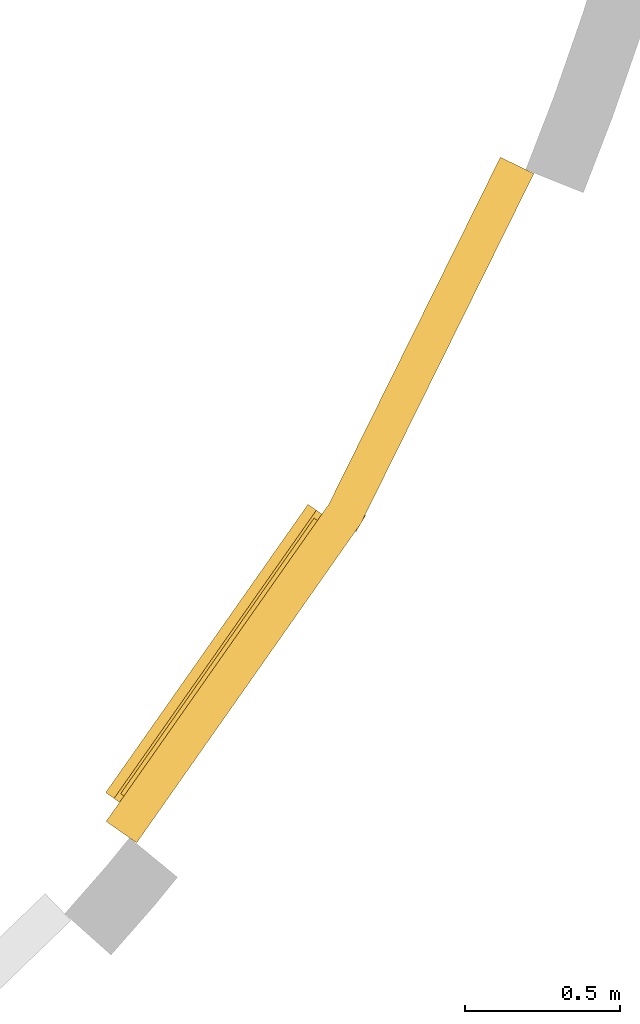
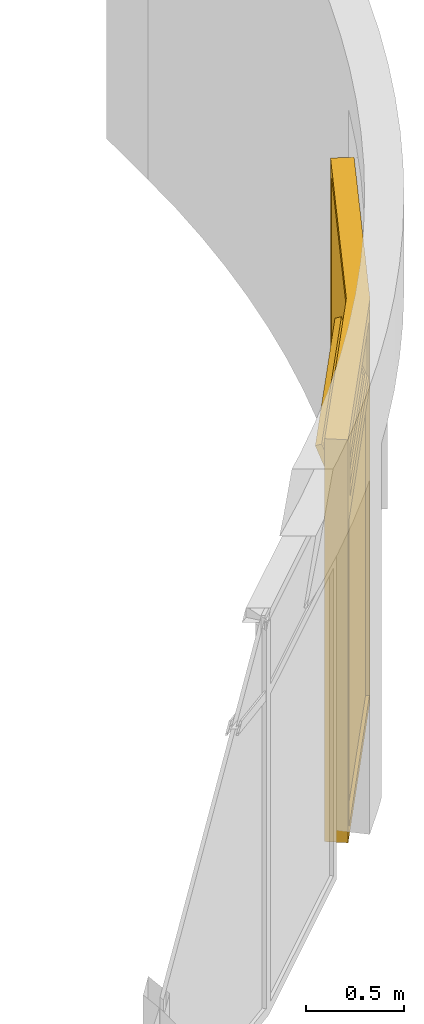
# One storey, part 7 of 7: 1 curtain wall.
"""IFC4 building model written with IfcOpenShell, lengths in millimetres."""

from ifc_helpers import new_model, entity, si_unit, converted_unit, derived_unit, direction, frame, origin_with_axes, place, context, subcontext, project, spatial, polygons, material, constituent, constituent_set, type_object, element, save


model = new_model("IFC4")

# Units and contexts
model_context = context("Model", 3, precision=0.01, world=origin_with_axes(), true_north=direction((0.0, 1.0)))
body_context = subcontext(model_context, "Body", "Model", "MODEL_VIEW")
ifc_project = project(units=[si_unit("LENGTHUNIT", "METRE", prefix="MILLI"), si_unit("AREAUNIT", "SQUARE_METRE"), si_unit("VOLUMEUNIT", "CUBIC_METRE"), converted_unit("PLANEANGLEUNIT", "DEGREE", entity("IfcPlaneAngleMeasure", 0.0174532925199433), si_unit("PLANEANGLEUNIT", "RADIAN"), dimensions=[0, 0, 0, 0, 0, 0, 0]), converted_unit("TIMEUNIT", "Year", entity("IfcTimeMeasure", 31557600.0), si_unit("TIMEUNIT", "SECOND"), dimensions=[0, 0, 1, 0, 0, 0, 0]), si_unit("MASSUNIT", "GRAM", prefix="KILO"), si_unit("THERMODYNAMICTEMPERATUREUNIT", "DEGREE_CELSIUS"), si_unit("LUMINOUSINTENSITYUNIT", "LUMEN"), si_unit("ENERGYUNIT", "JOULE", prefix="MEGA"), derived_unit("THERMALCONDUCTANCEUNIT", [(si_unit("POWERUNIT", "WATT"), 1), (si_unit("LENGTHUNIT", "METRE"), -1), (si_unit("THERMODYNAMICTEMPERATUREUNIT", "KELVIN"), -1)]), derived_unit("SPECIFICHEATCAPACITYUNIT", [(si_unit("ENERGYUNIT", "JOULE"), 1), (si_unit("MASSUNIT", "GRAM", prefix="KILO"), -1), (si_unit("THERMODYNAMICTEMPERATUREUNIT", "KELVIN"), -1)]), derived_unit("MASSDENSITYUNIT", [(si_unit("MASSUNIT", "GRAM", prefix="KILO"), 1), (si_unit("VOLUMEUNIT", "CUBIC_METRE"), -1)])], contexts=[model_context])

# Site, building, storey
site_placement = place(None, origin_with_axes())
site = spatial("IfcSite", under=ifc_project, at=site_placement, Name="Exteriér", CompositionType="ELEMENT")
building_placement = place(site_placement, origin_with_axes())
building = spatial("IfcBuilding", under=site, at=building_placement, Name="Univerzitní lezecké centrum", CompositionType="ELEMENT")
storey_placement = place(building_placement, origin_with_axes())
storey = spatial("IfcBuildingStorey", under=building, at=storey_placement, Name="1.NP", CompositionType="ELEMENT", Elevation=0.0)

# Curtain wall
ifc_material_1 = material(Name="Sklo")
ifc_constituent_1 = constituent(ifc_material_1, Name="Sklo 1")
ifc_constituent_2 = constituent(ifc_material_1, Name="Sklo 2")
ifc_constituent_3 = constituent(ifc_material_1, Name="Sklo 3")
ifc_material_2 = material(Name="Hliník")
ifc_constituent_4 = constituent(ifc_material_2, Name="Hliník 1")
ifc_constituent_5 = constituent(ifc_material_1, Name="Sklo 4")
ifc_constituent_6 = constituent(ifc_material_2, Name="Hliník 2")
ifc_constituent_7 = constituent(ifc_material_2, Name="Hliník 3")
ifc_constituent_8 = constituent(ifc_material_2, Name="Hliník 4")
ifc_constituent_9 = constituent(ifc_material_2, Name="Hliník 5")
ifc_constituent_10 = constituent(ifc_material_2, Name="Hliník 6")
ifc_constituent_11 = constituent(ifc_material_2, Name="Hliník 7")
ifc_constituent_12 = constituent(ifc_material_2, Name="Hliník 8")
ifc_constituent_13 = constituent(ifc_material_2, Name="Hliník 9")
ifc_constituent_14 = constituent(ifc_material_2, Name="Hliník 10")
ifc_constituent_15 = constituent(ifc_material_2, Name="Hliník 11")
ifc_constituent_16 = constituent(ifc_material_2, Name="Hliník 12")
ifc_constituent_17 = constituent(ifc_material_2, Name="Hliník 13")
ifc_constituent_set = constituent_set(constituents=[ifc_constituent_1, ifc_constituent_2, ifc_constituent_3, ifc_constituent_4, ifc_constituent_5, ifc_constituent_6, ifc_constituent_7, ifc_constituent_8, ifc_constituent_9, ifc_constituent_10, ifc_constituent_11, ifc_constituent_12, ifc_constituent_13, ifc_constituent_14, ifc_constituent_15, ifc_constituent_16, ifc_constituent_17])
curtain_wall_type = type_object("IfcCurtainWallType", Name="Typ lehkého obvodového pláště", PredefinedType="NOTDEFINED")
curtain_wall_placement = place(storey_placement, frame((9781.418617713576, -3917.675509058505, 0.0), z_axis=(0.0, 0.0, 1.0), x_axis=(1.0, 0.0, 0.0)))
element("IfcCurtainWall", 1, at=curtain_wall_placement, inside=storey, type_object=curtain_wall_type, material=ifc_constituent_set, Name="LOP01", PredefinedType="NOTDEFINED", context=body_context, shape_type="Tessellation", body=[
    polygons([(-286.7219246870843, -557.4251302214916, 2469.999973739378), (-268.7930911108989, -566.288364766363, 2469.999973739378), (273.4660872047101, 530.6107992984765, 2469.999973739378), (255.537253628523, 539.4740338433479, 2469.999973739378), (-286.7219246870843, -557.4251302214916, 2002.999991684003), (-268.7930911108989, -566.288364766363, 2002.999991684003), (273.4660872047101, 530.6107992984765, 2002.999991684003), (255.537253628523, 539.4740338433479, 2002.999991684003)], [[[1, 2, 3, 4]], [[5, 6, 2, 1]], [[2, 6, 7, 3]], [[4, 3, 7, 8]], [[1, 4, 8, 5]], [[8, 7, 6, 5]]], closed=True),
    polygons([(-286.721926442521, -557.4251337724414, 1997.00000596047), (-268.7930928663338, -566.2883683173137, 1997.00000596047), (273.4660834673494, 530.6107917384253, 1997.00000596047), (255.5372498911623, 539.4740262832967, 1997.00000596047), (-286.721926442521, -557.4251337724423, 30.00000000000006), (-268.7930928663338, -566.2883683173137, 30.00000000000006), (273.4660834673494, 530.6107917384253, 30.0), (255.5372498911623, 539.4740262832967, 30.0)], [[[1, 2, 3, 4]], [[5, 6, 2, 1]], [[2, 6, 7, 3]], [[4, 3, 7, 8]], [[1, 4, 8, 5]], [[8, 7, 6, 5]]], closed=True),
    polygons([(-989.1589829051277, -1557.68245362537, 1997.00000596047), (-972.7907403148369, -1569.175087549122, 1997.00000596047), (-269.6629855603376, -567.75402618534, 1997.00000596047), (-286.0312281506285, -556.2613922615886, 1997.00000596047), (-989.1589829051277, -1557.682453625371, 30.00000000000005), (-972.7907403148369, -1569.175087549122, 30.00000000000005), (-269.6629855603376, -567.75402618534, 29.99999999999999), (-286.0312281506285, -556.2613922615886, 29.99999999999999)], [[[1, 2, 3, 4]], [[5, 6, 2, 1]], [[2, 6, 7, 3]], [[4, 3, 7, 8]], [[1, 4, 8, 5]], [[8, 7, 6, 5]]], closed=True),
    polygons([(-278.7178163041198, -598.052708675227, 2029.9999915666), (-270.5336950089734, -603.7990256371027, 2029.9999915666), (-939.183538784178, -1556.115346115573, 2029.9999915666), (-947.3676600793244, -1550.369029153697, 2029.9999915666), (-301.7030841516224, -630.7891938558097, 2069.9999915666), (-293.518962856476, -636.5355108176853, 2069.9999915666), (-916.1982709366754, -1523.37886093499, 2069.9999915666), (-924.3823922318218, -1517.632543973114, 2069.9999915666)], [[[1, 2, 3, 4]], [[5, 6, 2, 1]], [[2, 6, 7, 3]], [[4, 3, 7, 8]], [[1, 4, 8, 5]], [[8, 7, 6, 5]]], closed=True),
    polygons([(-947.3676600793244, -1550.369029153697, 2029.9999915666), (-939.183538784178, -1556.115346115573, 2029.9999915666), (-939.183538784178, -1556.115346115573, 2439.999963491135), (-947.3676600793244, -1550.369029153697, 2439.999963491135), (-924.3823922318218, -1517.632543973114, 2069.9999915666), (-916.1982709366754, -1523.37886093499, 2069.9999915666), (-916.1982709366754, -1523.37886093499, 2399.999963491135), (-924.3823922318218, -1517.632543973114, 2399.999963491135)], [[[1, 2, 3, 4]], [[5, 6, 2, 1]], [[2, 6, 7, 3]], [[4, 3, 7, 8]], [[1, 4, 8, 5]], [[8, 7, 6, 5]]], closed=True),
    polygons([(-278.7178163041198, -598.052708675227, 2439.999963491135), (-270.5336950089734, -603.7990256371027, 2439.999963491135), (-293.518962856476, -636.5355108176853, 2399.999963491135), (-301.7030841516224, -630.7891938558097, 2399.999963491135), (-947.3676600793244, -1550.369029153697, 2439.999963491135), (-939.183538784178, -1556.115346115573, 2439.999963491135), (-916.1982709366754, -1523.37886093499, 2399.999963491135), (-924.3823922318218, -1517.632543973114, 2399.999963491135)], [[[1, 2, 3, 4]], [[5, 6, 2, 1]], [[2, 6, 7, 3]], [[4, 3, 7, 8]], [[1, 4, 8, 5]], [[8, 7, 6, 5]]], closed=True),
    polygons([(-278.7178163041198, -598.052708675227, 2029.9999915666), (-270.5336950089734, -603.7990256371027, 2029.9999915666), (-293.518962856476, -636.5355108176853, 2069.9999915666), (-301.7030841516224, -630.7891938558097, 2069.9999915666), (-278.7178163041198, -598.052708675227, 2439.999963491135), (-270.5336950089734, -603.7990256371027, 2439.999963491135), (-293.518962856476, -636.5355108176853, 2399.999963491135), (-301.7030841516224, -630.7891938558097, 2399.999963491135)], [[[1, 2, 3, 4]], [[5, 6, 2, 1]], [[2, 6, 7, 3]], [[4, 3, 7, 8]], [[1, 4, 8, 5]], [[8, 7, 6, 5]]], closed=True),
    polygons([(-303.270180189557, -580.8137577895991, 2029.9999915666), (-278.7178163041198, -598.052708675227, 2029.9999915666), (-947.3676600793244, -1550.369029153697, 2029.9999915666), (-971.9200239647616, -1533.13007826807, 2029.9999915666), (-311.8896556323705, -593.0899397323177, 2044.9999915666), (-287.3372917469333, -610.3288906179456, 2044.9999915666), (-938.7481846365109, -1538.092847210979, 2044.9999915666), (-963.3005485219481, -1520.853896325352, 2044.9999915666)], [[[1, 2, 3, 4]], [[5, 6, 2, 1]], [[2, 6, 7, 3]], [[4, 3, 7, 8]], [[1, 4, 8, 5]], [[8, 7, 6, 5]]], closed=True),
    polygons([(-971.9200239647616, -1533.13007826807, 2029.9999915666), (-947.3676600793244, -1550.369029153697, 2029.9999915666), (-947.3676600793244, -1550.369029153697, 2439.999963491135), (-971.9200239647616, -1533.13007826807, 2439.999963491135), (-963.3005485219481, -1520.853896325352, 2044.9999915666), (-938.7481846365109, -1538.092847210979, 2044.9999915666), (-938.7481846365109, -1538.092847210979, 2424.999963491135), (-963.3005485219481, -1520.853896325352, 2424.999963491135)], [[[1, 2, 3, 4]], [[5, 6, 2, 1]], [[2, 6, 7, 3]], [[4, 3, 7, 8]], [[1, 4, 8, 5]], [[8, 7, 6, 5]]], closed=True),
    polygons([(-303.270180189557, -580.8137577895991, 2439.999963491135), (-278.7178163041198, -598.052708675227, 2439.999963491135), (-287.3372917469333, -610.3288906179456, 2424.999963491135), (-311.8896556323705, -593.0899397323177, 2424.999963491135), (-971.9200239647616, -1533.13007826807, 2439.999963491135), (-947.3676600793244, -1550.369029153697, 2439.999963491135), (-938.7481846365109, -1538.092847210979, 2424.999963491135), (-963.3005485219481, -1520.853896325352, 2424.999963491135)], [[[1, 2, 3, 4]], [[5, 6, 2, 1]], [[2, 6, 7, 3]], [[4, 3, 7, 8]], [[1, 4, 8, 5]], [[8, 7, 6, 5]]], closed=True),
    polygons([(-303.270180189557, -580.8137577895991, 2029.9999915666), (-278.7178163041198, -598.052708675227, 2029.9999915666), (-287.3372917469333, -610.3288906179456, 2044.9999915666), (-311.8896556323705, -593.0899397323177, 2044.9999915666), (-303.270180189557, -580.8137577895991, 2439.999963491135), (-278.7178163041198, -598.052708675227, 2439.999963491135), (-287.3372917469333, -610.3288906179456, 2424.999963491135), (-311.8896556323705, -593.0899397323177, 2424.999963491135)], [[[1, 2, 3, 4]], [[5, 6, 2, 1]], [[2, 6, 7, 3]], [[4, 3, 7, 8]], [[1, 4, 8, 5]], [[8, 7, 6, 5]]], closed=True),
    polygons([(-286.0312234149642, -556.2613855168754, 2002.999991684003), (-269.6629808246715, -567.7540194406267, 2002.999991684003), (-972.7907381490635, -1569.175084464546, 2002.999991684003), (-989.1589807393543, -1557.682450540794, 2002.999991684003), (-303.270180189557, -580.8137577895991, 2029.9999915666), (-286.9019375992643, -592.3063917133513, 2029.9999915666), (-955.5517813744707, -1544.622712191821, 2029.9999915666), (-971.9200239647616, -1533.13007826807, 2029.9999915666)], [[[1, 2, 3, 4]], [[5, 6, 2, 1]], [[2, 6, 7, 3]], [[4, 3, 7, 8]], [[1, 4, 8, 5]], [[8, 7, 6, 5]]], closed=True),
    polygons([(-989.1589807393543, -1557.682450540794, 2002.999991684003), (-972.7907381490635, -1569.175084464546, 2002.999991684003), (-972.7907381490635, -1569.175084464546, 2469.999973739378), (-989.1589807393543, -1557.682450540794, 2469.999973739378), (-971.9200239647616, -1533.13007826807, 2029.9999915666), (-955.5517813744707, -1544.622712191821, 2029.9999915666), (-955.5517813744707, -1544.622712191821, 2439.999963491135), (-971.9200239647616, -1533.13007826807, 2439.999963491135)], [[[1, 2, 3, 4]], [[5, 6, 2, 1]], [[2, 6, 7, 3]], [[4, 3, 7, 8]], [[1, 4, 8, 5]], [[8, 7, 6, 5]]], closed=True),
    polygons([(-989.1589807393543, -1557.682450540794, 2469.999973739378), (-972.7907381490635, -1569.175084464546, 2469.999973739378), (-269.6629808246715, -567.7540194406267, 2469.999973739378), (-286.0312234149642, -556.2613855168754, 2469.999973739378), (-971.9200239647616, -1533.13007826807, 2439.999963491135), (-955.5517813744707, -1544.622712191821, 2439.999963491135), (-286.9019375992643, -592.3063917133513, 2439.999963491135), (-303.270180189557, -580.8137577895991, 2439.999963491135)], [[[1, 2, 3, 4]], [[5, 6, 2, 1]], [[2, 6, 7, 3]], [[4, 3, 7, 8]], [[1, 4, 8, 5]], [[8, 7, 6, 5]]], closed=True),
    polygons([(-286.0312234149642, -556.2613855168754, 2469.999973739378), (-269.6629808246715, -567.7540194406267, 2469.999973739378), (-269.6629808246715, -567.7540194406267, 2002.999991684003), (-286.0312234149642, -556.2613855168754, 2002.999991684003), (-303.270180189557, -580.8137577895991, 2439.999963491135), (-286.9019375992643, -592.3063917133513, 2439.999963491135), (-286.9019375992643, -592.3063917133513, 2029.9999915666), (-303.270180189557, -580.8137577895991, 2029.9999915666)], [[[1, 2, 3, 4]], [[5, 6, 2, 1]], [[2, 6, 7, 3]], [[4, 3, 7, 8]], [[1, 4, 8, 5]], [[8, 7, 6, 5]]], closed=True),
    polygons([(-310.1816087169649, -624.8361675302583, 2078.752911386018), (-402.5530340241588, -559.9794200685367, 2388.85144986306), (-429.4699883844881, -541.0802193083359, 2376.880744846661), (-337.0985630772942, -605.9369667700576, 2066.782206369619), (-288.8179804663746, -609.2892546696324, 2055.26059586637), (-395.1850774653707, -534.6057264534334, 2412.343765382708), (-422.1020318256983, -515.7065256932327, 2400.373060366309), (-315.7349348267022, -590.3900539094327, 2043.289890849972)], [[[1, 2, 3, 4]], [[1, 5, 6, 2]], [[2, 6, 7, 3]], [[4, 3, 7, 8]], [[5, 1, 4, 8]], [[6, 5, 8, 7]]], closed=True),
    polygons([(-940.2288733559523, -1537.053211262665, 2055.26059586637), (-1046.595970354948, -1462.369683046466, 2412.343765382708), (-1073.512924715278, -1443.470482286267, 2400.373060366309), (-967.1458277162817, -1518.154010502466, 2043.289890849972), (-932.8609167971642, -1511.679517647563, 2078.752911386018), (-1025.232342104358, -1446.82277018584, 2388.85144986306), (-1052.149296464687, -1427.923569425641, 2376.880744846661), (-959.7778711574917, -1492.780316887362, 2066.782206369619)], [[[1, 2, 3, 4]], [[1, 5, 6, 2]], [[2, 6, 7, 3]], [[4, 3, 7, 8]], [[5, 1, 4, 8]], [[6, 5, 8, 7]]], closed=True),
    polygons([(-940.2288733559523, -1537.053211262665, 2055.26059586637), (-932.8609167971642, -1511.679517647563, 2078.752911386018), (-959.7778711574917, -1492.780316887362, 2066.782206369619), (-967.1458277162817, -1518.154010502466, 2043.289890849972), (-288.8179804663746, -609.2892546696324, 2055.26059586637), (-310.1816087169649, -624.8361675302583, 2078.752911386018), (-337.0985630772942, -605.9369667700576, 2066.782206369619), (-315.7349348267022, -590.3900539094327, 2043.289890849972)], [[[1, 2, 3, 4]], [[1, 5, 6, 2]], [[2, 6, 7, 3]], [[4, 3, 7, 8]], [[5, 1, 4, 8]], [[6, 5, 8, 7]]], closed=True),
    polygons([(-395.1850774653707, -534.6057264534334, 2412.343765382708), (-402.5530340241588, -559.9794200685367, 2388.85144986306), (-429.4699883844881, -541.0802193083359, 2376.880744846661), (-422.1020318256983, -515.7065256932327, 2400.373060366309), (-1046.595970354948, -1462.369683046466, 2412.343765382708), (-1025.232342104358, -1446.82277018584, 2388.85144986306), (-1052.149296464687, -1427.923569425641, 2376.880744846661), (-1073.512924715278, -1443.470482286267, 2400.373060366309)], [[[1, 2, 3, 4]], [[1, 5, 6, 2]], [[2, 6, 7, 3]], [[4, 3, 7, 8]], [[5, 1, 4, 8]], [[6, 5, 8, 7]]], closed=True),
    polygons([(-317.8721671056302, -619.4363958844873, 2075.332709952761), (-940.5514751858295, -1506.279746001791, 2075.332709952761), (-952.8563686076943, -1497.640111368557, 2069.86038765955), (-330.177060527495, -610.7967612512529, 2069.86038765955), (-410.2435924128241, -554.5796484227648, 2385.431248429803), (-1032.922900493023, -1441.42299854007, 2385.431248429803), (-1045.227793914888, -1432.783363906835, 2379.958926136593), (-422.5484858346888, -545.9400137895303, 2379.958926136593)], [[[1, 2, 3, 4]], [[1, 5, 6, 2]], [[2, 6, 7, 3]], [[4, 3, 7, 8]], [[5, 1, 4, 8]], [[6, 5, 8, 7]]], closed=True),
    polygons([(-286.4211835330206, -556.8167814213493, 30.00000000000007), (-286.4211835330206, -556.8167814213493, 60.00000000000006), (-355.4185038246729, -515.8657577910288, 60.00000000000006), (-355.4185038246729, -515.8657577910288, 0.0), (-251.9225233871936, -577.2922932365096, 0.0), (-251.9225233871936, -577.2922932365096, 60.00000000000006), (-269.1718534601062, -567.0545373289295, 60.00000000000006), (-269.1718534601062, -567.0545373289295, 30.00000000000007), (255.5372498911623, 539.4740262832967, 30.0), (242.2423980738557, 512.5807759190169, 60.0), (170.527063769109, 548.0337140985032, 60.0), (197.116767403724, 601.8202148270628, 0.0), (304.6897688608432, 548.6408075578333, 0.0), (278.1000652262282, 494.8543068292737, 60.0), (260.1712316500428, 503.7175413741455, 60.0), (273.4660834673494, 530.6107917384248, 30.0)], [[[1, 2, 3, 4, 5, 6, 7, 8]], [[1, 9, 10, 2]], [[10, 11, 3, 2]], [[3, 11, 12, 4]], [[4, 12, 13, 5]], [[5, 13, 14, 6]], [[7, 6, 14, 15]], [[15, 16, 8, 7]], [[8, 16, 9, 1]], [[9, 16, 15, 14, 13, 12, 11, 10]]], closed=True),
    polygons([(255.5372498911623, 539.4740262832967, 2000.0), (273.4660834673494, 530.6107917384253, 2000.0), (260.1712316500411, 503.7175413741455, 2000.0), (278.1000652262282, 494.8543068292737, 2000.0), (304.6897688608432, 548.6408075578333, 2000.0), (197.116767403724, 601.8202148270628, 2000.0), (170.527063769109, 548.0337140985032, 2000.0), (242.2423980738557, 512.5807759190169, 2000.0), (255.5372498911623, 539.4740262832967, 30.00000000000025), (273.4660834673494, 530.6107917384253, 30.00000000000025), (260.1712316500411, 503.7175413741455, 59.99999999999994), (278.1000652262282, 494.8543068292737, 59.99999999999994), (304.6897688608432, 548.6408075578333, 0.0), (197.116767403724, 601.8202148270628, 0.0), (170.527063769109, 548.0337140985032, 60.00000000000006), (242.2423980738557, 512.5807759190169, 59.99999999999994)], [[[1, 2, 3, 4, 5, 6, 7, 8]], [[2, 1, 9, 10]], [[11, 3, 2, 10]], [[3, 11, 12, 4]], [[5, 4, 12, 13]], [[6, 5, 13, 14]], [[7, 6, 14, 15]], [[16, 8, 7, 15]], [[1, 8, 16, 9]], [[9, 16, 15, 14, 13, 12, 11, 10]]], closed=True),
    polygons([(-286.4211835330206, -556.8167814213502, 60.00000000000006), (-273.0873181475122, -529.8446131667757, 60.00000000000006), (-273.0873181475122, -529.8446131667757, 2000.0), (-286.4211835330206, -556.8167814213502, 2000.0), (-303.7107218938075, -581.4411938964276, 60.00000000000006), (-318.9065107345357, -572.422247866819, 60.00000000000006), (-288.2831069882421, -520.8256671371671, 60.00000000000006), (-288.2831069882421, -520.8256671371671, 2000.0), (-318.9065107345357, -572.422247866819, 2000.0), (-303.7107218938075, -581.4411938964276, 2000.0)], [[[1, 2, 3, 4]], [[5, 6, 7, 2, 1]], [[3, 2, 7, 8]], [[4, 3, 8, 9, 10]], [[10, 5, 1, 4]], [[10, 9, 6, 5]], [[9, 8, 7, 6]]], closed=True),
    polygons([(-286.4613918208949, -591.6789498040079, 2000.0), (-267.3099300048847, -603.0456516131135, 2000.0), (-236.6865262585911, -551.4490708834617, 2000.0), (-255.8379880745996, -540.0823690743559, 2000.0), (-268.7930881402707, -566.2883587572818, 2000.0), (-278.7868855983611, -561.3478605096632, 2000.0), (-269.662984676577, -567.7540249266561, 2000.0), (-286.4613918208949, -591.6789498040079, 59.99999999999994), (-267.3099300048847, -603.0456516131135, 59.99999999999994), (-236.6865262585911, -551.4490708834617, 59.99999999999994), (-255.8379880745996, -540.0823690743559, 59.99999999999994), (-268.7930881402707, -566.2883587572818, 60.00000000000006), (-278.7868855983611, -561.3478605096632, 60.00000000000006), (-269.662984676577, -567.7540249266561, 60.00000000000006)], [[[1, 2, 3, 4, 5, 6, 7]], [[8, 9, 2, 1]], [[3, 2, 9, 10]], [[11, 4, 3, 10]], [[4, 11, 12, 5]], [[6, 5, 12, 13]], [[13, 14, 7, 6]], [[7, 14, 8, 1]], [[14, 13, 12, 11, 10, 9, 8]]], closed=True),
    polygons([(255.5372498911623, 539.4740262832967, 2469.999914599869), (273.4660834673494, 530.6107917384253, 2469.999914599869), (260.1712316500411, 503.7175413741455, 2439.999914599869), (278.1000652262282, 494.8543068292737, 2439.999914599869), (304.6897688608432, 548.6408075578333, 2499.999914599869), (197.116767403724, 601.8202148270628, 2499.999914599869), (170.527063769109, 548.0337140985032, 2439.999914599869), (242.2423980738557, 512.5807759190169, 2439.999914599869), (255.5372498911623, 539.4740262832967, 2000.0), (273.4660834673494, 530.6107917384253, 2000.0), (260.1712316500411, 503.7175413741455, 2000.0), (278.1000652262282, 494.8543068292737, 2000.0), (304.6897688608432, 548.6408075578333, 2000.0), (197.116767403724, 601.8202148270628, 2000.0), (170.527063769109, 548.0337140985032, 2000.0), (242.2423980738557, 512.5807759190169, 2000.0)], [[[1, 2, 3, 4, 5, 6, 7, 8]], [[2, 1, 9, 10]], [[11, 3, 2, 10]], [[3, 11, 12, 4]], [[13, 5, 4, 12]], [[14, 6, 5, 13]], [[15, 7, 6, 14]], [[16, 8, 7, 15]], [[1, 8, 16, 9]], [[9, 16, 15, 14, 13, 12, 11, 10]]], closed=True),
    polygons([(-286.4211835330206, -556.8167814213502, 2000.0), (-273.0873181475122, -529.8446131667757, 2000.0), (-273.0873181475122, -529.8446131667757, 2439.999966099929), (-286.4211835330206, -556.8167814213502, 2439.999966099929), (-303.7107218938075, -581.4411938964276, 2000.0), (-318.9065107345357, -572.422247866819, 2000.0), (-288.2831069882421, -520.8256671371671, 2000.0), (-288.2831069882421, -520.8256671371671, 2439.999966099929), (-318.9065107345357, -572.422247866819, 2439.999966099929), (-303.7107218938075, -581.4411938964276, 2439.999966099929)], [[[1, 2, 3, 4]], [[5, 6, 7, 2, 1]], [[3, 2, 7, 8]], [[4, 3, 8, 9, 10]], [[10, 5, 1, 4]], [[10, 9, 6, 5]], [[8, 7, 6, 9]]], closed=True),
    polygons([(-286.4613918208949, -591.6789498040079, 2439.999966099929), (-267.3099300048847, -603.0456516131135, 2439.999966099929), (-236.6865262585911, -551.4490708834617, 2439.999966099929), (-255.8379880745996, -540.0823690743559, 2439.999966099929), (-268.7930881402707, -566.2883587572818, 2439.999966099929), (-278.7868855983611, -561.3478605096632, 2439.999966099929), (-269.662984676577, -567.7540249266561, 2439.999966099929), (-286.4613918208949, -591.6789498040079, 2000.0), (-267.3099300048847, -603.0456516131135, 2000.0), (-236.6865262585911, -551.4490708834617, 2000.0), (-255.8379880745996, -540.0823690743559, 2000.0), (-268.7930881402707, -566.2883587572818, 2000.0), (-278.7868855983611, -561.3478605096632, 2000.0), (-269.662984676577, -567.7540249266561, 2000.0)], [[[1, 2, 3, 4, 5, 6, 7]], [[8, 9, 2, 1]], [[2, 9, 10, 3]], [[11, 4, 3, 10]], [[4, 11, 12, 5]], [[6, 5, 12, 13]], [[13, 14, 7, 6]], [[7, 14, 8, 1]], [[14, 13, 12, 11, 10, 9, 8]]], closed=True),
    polygons([(-281.6728551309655, -524.6465857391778, 1997.0), (-247.1741949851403, -545.1220975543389, 1997.0), (-247.1741949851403, -545.1220975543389, 1970.0), (-238.5495299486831, -550.240975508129, 1970.0), (-238.5495299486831, -550.240975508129, 2030.0), (-247.1741949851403, -545.1220975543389, 2030.0), (-247.1741949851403, -545.1220975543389, 2003.0), (-281.6728551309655, -524.6465857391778, 2003.0), (-281.6728551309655, -524.6465857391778, 2030.0), (-290.2975201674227, -519.5277077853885, 2030.0), (-290.2975201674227, -519.5277077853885, 1970.0), (-281.6728551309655, -524.6465857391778, 1970.0), (233.277981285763, 517.0123931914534, 1997.0), (269.1356484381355, 499.2859241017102, 1997.0), (269.1356484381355, 499.2859241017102, 1970.0), (278.1000652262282, 494.8543068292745, 1970.0), (278.1000652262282, 494.8543068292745, 2030.0), (269.1356484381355, 499.2859241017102, 2030.0), (269.1356484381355, 499.2859241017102, 2003.0), (233.277981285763, 517.0123931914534, 2003.0), (233.277981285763, 517.0123931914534, 2030.0), (224.3135644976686, 521.4440104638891, 2030.0), (224.3135644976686, 521.4440104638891, 1970.0), (233.277981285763, 517.0123931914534, 1970.0)], [[[1, 2, 3, 4, 5, 6, 7, 8, 9, 10, 11, 12]], [[1, 13, 14, 2]], [[2, 14, 15, 3]], [[15, 16, 4, 3]], [[5, 4, 16, 17]], [[18, 6, 5, 17]], [[6, 18, 19, 7]], [[8, 7, 19, 20]], [[9, 8, 20, 21]], [[9, 21, 22, 10]], [[11, 10, 22, 23]], [[12, 11, 23, 24]], [[12, 24, 13, 1]], [[14, 13, 24, 23, 22, 21, 20, 19, 18, 17, 16, 15]]], closed=True),
    polygons([(-286.4211835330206, -556.8167814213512, 2469.999966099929), (-269.171853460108, -567.0545373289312, 2469.999966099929), (-269.171853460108, -567.0545373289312, 2439.999966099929), (-251.9225233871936, -577.2922932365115, 2439.999966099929), (-251.9225233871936, -577.2922932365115, 2499.999966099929), (-355.4185038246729, -515.8657577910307, 2499.999966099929), (-355.4185038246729, -515.8657577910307, 2439.999966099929), (-286.4211835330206, -556.8167814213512, 2439.999966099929), (255.5372498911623, 539.4740262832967, 2469.999966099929), (273.4660834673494, 530.6107917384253, 2469.999966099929), (260.1712316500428, 503.717541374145, 2439.999966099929), (278.1000652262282, 494.8543068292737, 2439.999966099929), (304.6897688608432, 548.6408075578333, 2499.999966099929), (197.116767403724, 601.8202148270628, 2499.999966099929), (170.527063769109, 548.0337140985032, 2439.999966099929), (242.2423980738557, 512.5807759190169, 2439.999966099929)], [[[1, 2, 3, 4, 5, 6, 7, 8]], [[2, 1, 9, 10]], [[11, 3, 2, 10]], [[3, 11, 12, 4]], [[5, 4, 12, 13]], [[6, 5, 13, 14]], [[7, 6, 14, 15]], [[16, 8, 7, 15]], [[1, 8, 16, 9]], [[9, 16, 15, 14, 13, 12, 11, 10]]], closed=True),
    polygons([(-989.1589758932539, -1557.682443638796, 2000.0), (-971.9200250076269, -1533.130079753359, 2000.0), (-1037.392995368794, -1487.159544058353, 2000.0), (-1071.870897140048, -1536.264271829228, 2000.0), (-973.6614415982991, -1605.220075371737, 2000.0), (-939.1835398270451, -1556.115347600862, 2000.0), (-955.5517824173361, -1544.622713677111, 2000.0), (-972.7907333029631, -1569.175077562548, 2000.0), (-989.1589758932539, -1557.682443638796, 30.00000000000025), (-971.9200250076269, -1533.130079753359, 59.99999999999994), (-1037.392995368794, -1487.159544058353, 60.00000000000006), (-1071.870897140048, -1536.264271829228, 0.0), (-973.6614415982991, -1605.220075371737, 0.0), (-939.1835398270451, -1556.115347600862, 59.99999999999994), (-955.5517824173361, -1544.622713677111, 59.99999999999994), (-972.7907333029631, -1569.175077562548, 30.00000000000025)], [[[1, 2, 3, 4, 5, 6, 7, 8]], [[1, 9, 10, 2]], [[10, 11, 3, 2]], [[3, 11, 12, 4]], [[4, 12, 13, 5]], [[5, 13, 14, 6]], [[7, 6, 14, 15]], [[15, 16, 8, 7]], [[8, 16, 9, 1]], [[9, 16, 15, 14, 13, 12, 11, 10]]], closed=True),
    polygons([(-989.1589758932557, -1557.682443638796, 2469.999966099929), (-971.9200250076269, -1533.130079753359, 2439.999966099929), (-1037.392995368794, -1487.159544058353, 2439.999966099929), (-1071.870897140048, -1536.264271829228, 2499.999966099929), (-973.6614415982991, -1605.220075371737, 2499.999966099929), (-939.1835398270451, -1556.115347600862, 2439.999966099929), (-955.5517824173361, -1544.622713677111, 2439.999966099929), (-972.7907333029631, -1569.175077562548, 2469.999966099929), (-989.1589758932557, -1557.682443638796, 2000.0), (-971.9200250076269, -1533.130079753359, 2000.0), (-1037.392995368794, -1487.159544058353, 2000.0), (-1071.870897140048, -1536.264271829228, 2000.0), (-973.6614415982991, -1605.220075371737, 2000.0), (-939.1835398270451, -1556.115347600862, 2000.0), (-955.5517824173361, -1544.622713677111, 2000.0), (-972.7907333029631, -1569.175077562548, 2000.0)], [[[1, 2, 3, 4, 5, 6, 7, 8]], [[1, 9, 10, 2]], [[10, 11, 3, 2]], [[11, 12, 4, 3]], [[12, 13, 5, 4]], [[13, 14, 6, 5]], [[7, 6, 14, 15]], [[15, 16, 8, 7]], [[8, 16, 9, 1]], [[9, 16, 15, 14, 13, 12, 11, 10]]], closed=True),
    polygons([(-989.1589758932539, -1557.682443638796, 30.00000000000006), (-971.9200250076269, -1533.130079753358, 60.00000000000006), (-1037.392995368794, -1487.159544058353, 60.00000000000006), (-1071.870897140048, -1536.264271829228, 0.0), (-973.6614415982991, -1605.220075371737, 0.0), (-939.1835398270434, -1556.115347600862, 60.00000000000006), (-955.5517824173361, -1544.622713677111, 60.00000000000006), (-972.7907333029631, -1569.175077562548, 30.00000000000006), (-286.4211835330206, -556.8167814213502, 30.0), (-286.4211835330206, -556.8167814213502, 60.0), (-355.4185038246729, -515.8657577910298, 60.0), (-355.4185038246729, -515.8657577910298, 0.0), (-251.9225233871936, -577.2922932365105, 0.0), (-251.9225233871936, -577.2922932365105, 60.0), (-269.1718534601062, -567.0545373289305, 60.0), (-269.1718534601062, -567.0545373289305, 30.0)], [[[1, 2, 3, 4, 5, 6, 7, 8]], [[1, 9, 10, 2]], [[10, 11, 3, 2]], [[3, 11, 12, 4]], [[4, 12, 13, 5]], [[5, 13, 14, 6]], [[7, 6, 14, 15]], [[15, 16, 8, 7]], [[8, 16, 9, 1]], [[9, 16, 15, 14, 13, 12, 11, 10]]], closed=True),
    polygons([(-980.1041463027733, -1527.383762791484, 1997.0), (-947.3676611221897, -1550.369030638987, 1997.0), (-947.3676611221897, -1550.369030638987, 1970.0), (-939.1835398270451, -1556.115347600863, 1970.0), (-939.1835398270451, -1556.115347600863, 2030.0), (-947.3676611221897, -1550.369030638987, 2030.0), (-947.3676611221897, -1550.369030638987, 2003.0), (-980.1041463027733, -1527.383762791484, 2003.0), (-980.1041463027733, -1527.383762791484, 2030.0), (-988.2882675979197, -1521.637445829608, 2030.0), (-988.2882675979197, -1521.637445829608, 1970.0), (-980.1041463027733, -1527.383762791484, 1970.0), (-312.386122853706, -576.3945759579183, 1997.0), (-277.8874627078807, -596.8700877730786, 1997.0), (-277.8874627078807, -596.8700877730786, 1970.0), (-269.2627976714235, -601.9889657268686, 1970.0), (-269.2627976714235, -601.9889657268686, 2030.0), (-277.8874627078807, -596.8700877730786, 2030.0), (-277.8874627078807, -596.8700877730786, 2003.0), (-312.386122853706, -576.3945759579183, 2003.0), (-312.386122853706, -576.3945759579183, 2030.0), (-321.0107878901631, -571.2756980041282, 2030.0), (-321.0107878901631, -571.2756980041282, 1970.0), (-312.386122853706, -576.3945759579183, 1970.0)], [[[1, 2, 3, 4, 5, 6, 7, 8, 9, 10, 11, 12]], [[1, 13, 14, 2]], [[2, 14, 15, 3]], [[15, 16, 4, 3]], [[5, 4, 16, 17]], [[18, 6, 5, 17]], [[6, 18, 19, 7]], [[8, 7, 19, 20]], [[9, 8, 20, 21]], [[9, 21, 22, 10]], [[11, 10, 22, 23]], [[12, 11, 23, 24]], [[12, 24, 13, 1]], [[14, 13, 24, 23, 22, 21, 20, 19, 18, 17, 16, 15]]], closed=True),
    polygons([(-989.1589758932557, -1557.682443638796, 2469.999966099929), (-972.7907333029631, -1569.175077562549, 2469.999966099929), (-955.5517824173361, -1544.622713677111, 2439.999966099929), (-939.1835398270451, -1556.115347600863, 2439.999966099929), (-973.6614415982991, -1605.220075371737, 2499.999966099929), (-1071.870897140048, -1536.264271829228, 2499.999966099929), (-1037.392995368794, -1487.159544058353, 2439.999966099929), (-971.9200250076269, -1533.130079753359, 2439.999966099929), (-286.4211835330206, -556.8167814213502, 2469.999966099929), (-269.1718534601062, -567.0545373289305, 2469.999966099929), (-269.1718534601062, -567.0545373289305, 2439.999966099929), (-251.9225233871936, -577.2922932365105, 2439.999966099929), (-251.9225233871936, -577.2922932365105, 2499.999966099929), (-355.4185038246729, -515.8657577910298, 2499.999966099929), (-355.4185038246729, -515.8657577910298, 2439.999966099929), (-286.4211835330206, -556.8167814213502, 2439.999966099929)], [[[1, 2, 3, 4, 5, 6, 7, 8]], [[2, 1, 9, 10]], [[11, 3, 2, 10]], [[3, 11, 12, 4]], [[5, 4, 12, 13]], [[6, 5, 13, 14]], [[7, 6, 14, 15]], [[16, 8, 7, 15]], [[1, 8, 16, 9]], [[9, 16, 15, 14, 13, 12, 11, 10]]], closed=True),
])

save(model, "model.ifc")
